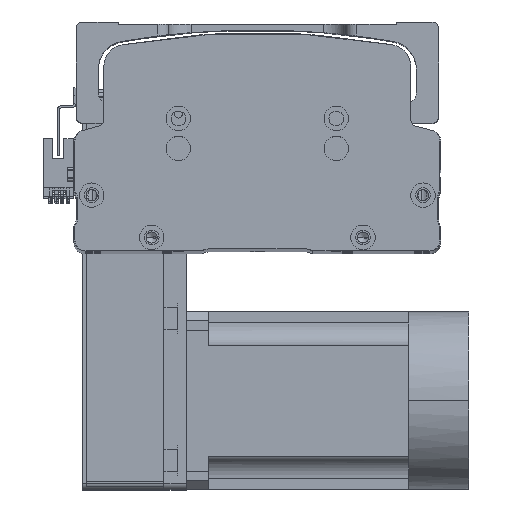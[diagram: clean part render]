
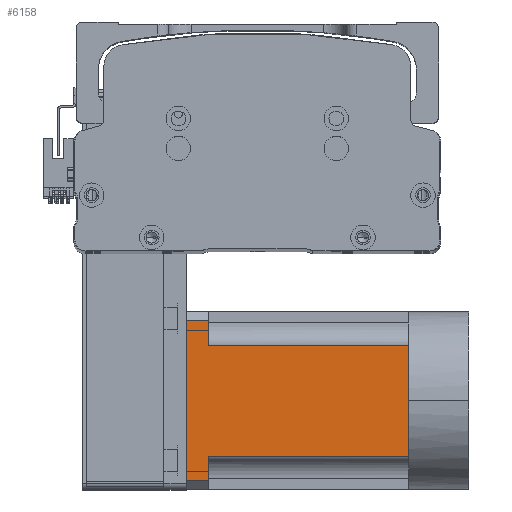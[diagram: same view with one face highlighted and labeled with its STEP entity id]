
A CAD part, top view. The second image highlights one B-rep face of the part: STEP entity #6158.
In plain terms, the highlighted planar face has unit normal (0, 0, 1) as drawn and (0, 0, -1) by its records, which use the part's own axes.
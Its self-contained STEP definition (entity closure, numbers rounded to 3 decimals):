
#1344 = LINE ( 'NONE', #51602, #62295 ) ;
#2860 = LINE ( 'NONE', #35399, #4353 ) ;
#3519 = DIRECTION ( 'NONE',  ( -1., 0., 0. ) ) ;
#4353 = VECTOR ( 'NONE', #20883, 1000. ) ;
#6158 = ADVANCED_FACE ( 'NONE', ( #37170 ), #29784, .T. ) ;
#6243 = CARTESIAN_POINT ( 'NONE',  ( 36., 100., -40. ) ) ;
#7009 = CARTESIAN_POINT ( 'NONE',  ( 0., 0., -40. ) ) ;
#7824 = DIRECTION ( 'NONE',  ( 0., 1., 0. ) ) ;
#8004 = VERTEX_POINT ( 'NONE', #42708 ) ;
#10257 = VERTEX_POINT ( 'NONE', #47295 ) ;
#10572 = EDGE_LOOP ( 'NONE', ( #24686, #55745, #49187, #62333, #54034, #51545, #14095, #57028, #17983 ) ) ;
#13085 = LINE ( 'NONE', #30466, #50056 ) ;
#14095 = ORIENTED_EDGE ( 'NONE', *, *, #57870, .T. ) ;
#14213 = LINE ( 'NONE', #30281, #51193 ) ;
#14598 = LINE ( 'NONE', #26707, #30423 ) ;
#14792 = VERTEX_POINT ( 'NONE', #47290 ) ;
#15578 = EDGE_CURVE ( 'NONE', #20822, #8004, #14213, .T. ) ;
#16187 = CARTESIAN_POINT ( 'NONE',  ( -25., 0., -40. ) ) ;
#16813 = VERTEX_POINT ( 'NONE', #7009 ) ;
#17983 = ORIENTED_EDGE ( 'NONE', *, *, #60175, .T. ) ;
#18721 = EDGE_CURVE ( 'NONE', #14792, #10257, #13085, .T. ) ;
#20324 = DIRECTION ( 'NONE',  ( -1., 0., 0. ) ) ;
#20822 = VERTEX_POINT ( 'NONE', #6243 ) ;
#20883 = DIRECTION ( 'NONE',  ( -1., 0., 0. ) ) ;
#21039 = DIRECTION ( 'NONE',  ( 0., -1., 0. ) ) ;
#21844 = AXIS2_PLACEMENT_3D ( 'NONE', #34643, #49222, #20324 ) ;
#23222 = LINE ( 'NONE', #26998, #60139 ) ;
#23848 = EDGE_CURVE ( 'NONE', #16813, #38688, #27834, .T. ) ;
#24686 = ORIENTED_EDGE ( 'NONE', *, *, #31895, .F. ) ;
#24956 = VERTEX_POINT ( 'NONE', #27431 ) ;
#24957 = DIRECTION ( 'NONE',  ( 0., 1., 0. ) ) ;
#25498 = DIRECTION ( 'NONE',  ( 0., -1., 0. ) ) ;
#25606 = VECTOR ( 'NONE', #32921, 1000. ) ;
#26624 = VECTOR ( 'NONE', #24957, 1000. ) ;
#26707 = CARTESIAN_POINT ( 'NONE',  ( -40., 0., -40. ) ) ;
#26998 = CARTESIAN_POINT ( 'NONE',  ( -36., -27., -40. ) ) ;
#27431 = CARTESIAN_POINT ( 'NONE',  ( -36., 90., -40. ) ) ;
#27834 = LINE ( 'NONE', #47617, #40661 ) ;
#29402 = CARTESIAN_POINT ( 'NONE',  ( -36., 100., -40. ) ) ;
#29784 = PLANE ( 'NONE',  #21844 ) ;
#30281 = CARTESIAN_POINT ( 'NONE',  ( 36., -27., -40. ) ) ;
#30423 = VECTOR ( 'NONE', #36177, 1000. ) ;
#30466 = CARTESIAN_POINT ( 'NONE',  ( 25., -27., -40. ) ) ;
#31509 = VERTEX_POINT ( 'NONE', #29402 ) ;
#31895 = EDGE_CURVE ( 'NONE', #20822, #31509, #62444, .T. ) ;
#32593 = EDGE_CURVE ( 'NONE', #44254, #24956, #2860, .T. ) ;
#32921 = DIRECTION ( 'NONE',  ( -1., 0., 0. ) ) ;
#33217 = DIRECTION ( 'NONE',  ( -1., 0., 0. ) ) ;
#34643 = CARTESIAN_POINT ( 'NONE',  ( -40., -27., -40. ) ) ;
#35399 = CARTESIAN_POINT ( 'NONE',  ( -40., 90., -40. ) ) ;
#36177 = DIRECTION ( 'NONE',  ( -1., 0., 0. ) ) ;
#37170 = FACE_OUTER_BOUND ( 'NONE', #10572, .T. ) ;
#38688 = VERTEX_POINT ( 'NONE', #16187 ) ;
#39426 = LINE ( 'NONE', #44113, #26624 ) ;
#40661 = VECTOR ( 'NONE', #33217, 1000. ) ;
#42708 = CARTESIAN_POINT ( 'NONE',  ( 36., 90., -40. ) ) ;
#44113 = CARTESIAN_POINT ( 'NONE',  ( -25., -27., -40. ) ) ;
#44254 = VERTEX_POINT ( 'NONE', #49429 ) ;
#47290 = CARTESIAN_POINT ( 'NONE',  ( 25., 90., -40. ) ) ;
#47295 = CARTESIAN_POINT ( 'NONE',  ( 25., 0., -40. ) ) ;
#47617 = CARTESIAN_POINT ( 'NONE',  ( -40., 0., -40. ) ) ;
#49187 = ORIENTED_EDGE ( 'NONE', *, *, #53717, .T. ) ;
#49222 = DIRECTION ( 'NONE',  ( 0., 0., -1. ) ) ;
#49429 = CARTESIAN_POINT ( 'NONE',  ( -25., 90., -40. ) ) ;
#50056 = VECTOR ( 'NONE', #21039, 1000. ) ;
#51193 = VECTOR ( 'NONE', #25498, 1000. ) ;
#51545 = ORIENTED_EDGE ( 'NONE', *, *, #23848, .T. ) ;
#51602 = CARTESIAN_POINT ( 'NONE',  ( -40., 90., -40. ) ) ;
#53717 = EDGE_CURVE ( 'NONE', #8004, #14792, #1344, .T. ) ;
#54034 = ORIENTED_EDGE ( 'NONE', *, *, #56011, .T. ) ;
#55745 = ORIENTED_EDGE ( 'NONE', *, *, #15578, .T. ) ;
#56011 = EDGE_CURVE ( 'NONE', #10257, #16813, #14598, .T. ) ;
#57028 = ORIENTED_EDGE ( 'NONE', *, *, #32593, .T. ) ;
#57870 = EDGE_CURVE ( 'NONE', #38688, #44254, #39426, .T. ) ;
#60139 = VECTOR ( 'NONE', #7824, 1000. ) ;
#60175 = EDGE_CURVE ( 'NONE', #24956, #31509, #23222, .T. ) ;
#61765 = CARTESIAN_POINT ( 'NONE',  ( -40., 100., -40. ) ) ;
#62295 = VECTOR ( 'NONE', #3519, 1000. ) ;
#62333 = ORIENTED_EDGE ( 'NONE', *, *, #18721, .T. ) ;
#62444 = LINE ( 'NONE', #61765, #25606 ) ;
